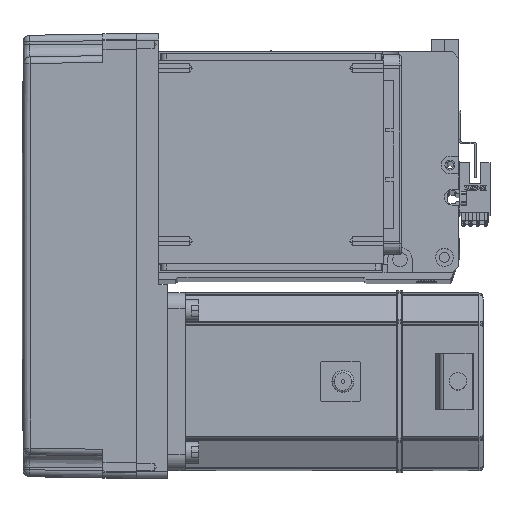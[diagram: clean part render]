
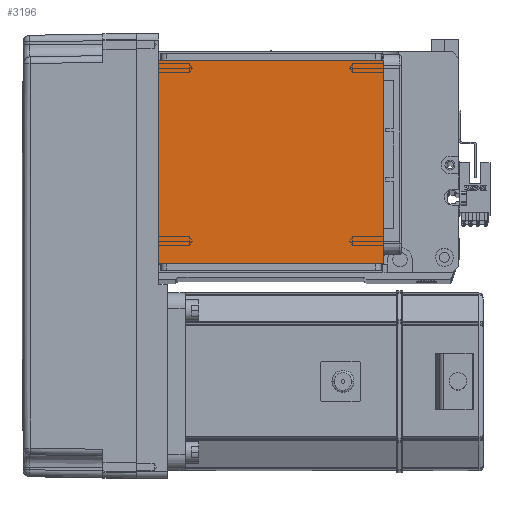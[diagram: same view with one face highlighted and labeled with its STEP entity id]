
A CAD part, top view. The second image highlights one B-rep face of the part: STEP entity #3196.
In plain terms, the highlighted planar face has unit normal (0, 0, 1).
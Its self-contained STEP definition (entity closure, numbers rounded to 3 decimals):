
#1384 = LINE ( 'NONE', #12552, #30551 ) ;
#2627 = EDGE_CURVE ( 'NONE', #38710, #36924, #51626, .T. ) ;
#2646 = VECTOR ( 'NONE', #22359, 1000. ) ;
#3196 = ADVANCED_FACE ( 'NONE', ( #33783 ), #12383, .T. ) ;
#4143 = EDGE_LOOP ( 'NONE', ( #51124, #12658, #50105, #44759 ) ) ;
#6275 = VECTOR ( 'NONE', #57616, 1000. ) ;
#7972 = EDGE_CURVE ( 'NONE', #29059, #36924, #46519, .T. ) ;
#10434 = CARTESIAN_POINT ( 'NONE',  ( -50.5, 20., 115. ) ) ;
#10958 = EDGE_CURVE ( 'NONE', #29059, #35981, #1384, .T. ) ;
#12383 = PLANE ( 'NONE',  #38371 ) ;
#12552 = CARTESIAN_POINT ( 'NONE',  ( -70.004, 20., 115. ) ) ;
#12658 = ORIENTED_EDGE ( 'NONE', *, *, #25909, .T. ) ;
#16914 = DIRECTION ( 'NONE',  ( 1., 0., 0. ) ) ;
#17274 = CARTESIAN_POINT ( 'NONE',  ( 50.5, 20., 115. ) ) ;
#18360 = CARTESIAN_POINT ( 'NONE',  ( 50.5, 122., 115. ) ) ;
#20155 = CARTESIAN_POINT ( 'NONE',  ( -50.5, 111.5, 115. ) ) ;
#22359 = DIRECTION ( 'NONE',  ( 1., 0., 0. ) ) ;
#25909 = EDGE_CURVE ( 'NONE', #38710, #35981, #43912, .T. ) ;
#26368 = CARTESIAN_POINT ( 'NONE',  ( -70.004, 111.5, 115. ) ) ;
#26487 = DIRECTION ( 'NONE',  ( 0., 0., 1. ) ) ;
#29059 = VERTEX_POINT ( 'NONE', #17274 ) ;
#30551 = VECTOR ( 'NONE', #34989, 1000. ) ;
#33783 = FACE_OUTER_BOUND ( 'NONE', #4143, .T. ) ;
#34433 = VECTOR ( 'NONE', #41575, 1000. ) ;
#34989 = DIRECTION ( 'NONE',  ( -1., 0., 0. ) ) ;
#35981 = VERTEX_POINT ( 'NONE', #10434 ) ;
#36924 = VERTEX_POINT ( 'NONE', #49647 ) ;
#38371 = AXIS2_PLACEMENT_3D ( 'NONE', #53312, #26487, #16914 ) ;
#38710 = VERTEX_POINT ( 'NONE', #20155 ) ;
#41575 = DIRECTION ( 'NONE',  ( 0., 1., 0. ) ) ;
#43912 = LINE ( 'NONE', #44171, #6275 ) ;
#44171 = CARTESIAN_POINT ( 'NONE',  ( -50.5, 122., 115. ) ) ;
#44759 = ORIENTED_EDGE ( 'NONE', *, *, #7972, .T. ) ;
#46519 = LINE ( 'NONE', #18360, #34433 ) ;
#49647 = CARTESIAN_POINT ( 'NONE',  ( 50.5, 111.5, 115. ) ) ;
#50105 = ORIENTED_EDGE ( 'NONE', *, *, #10958, .F. ) ;
#51124 = ORIENTED_EDGE ( 'NONE', *, *, #2627, .F. ) ;
#51626 = LINE ( 'NONE', #26368, #2646 ) ;
#53312 = CARTESIAN_POINT ( 'NONE',  ( 0., 0., 115. ) ) ;
#57616 = DIRECTION ( 'NONE',  ( 0., -1., 0. ) ) ;
